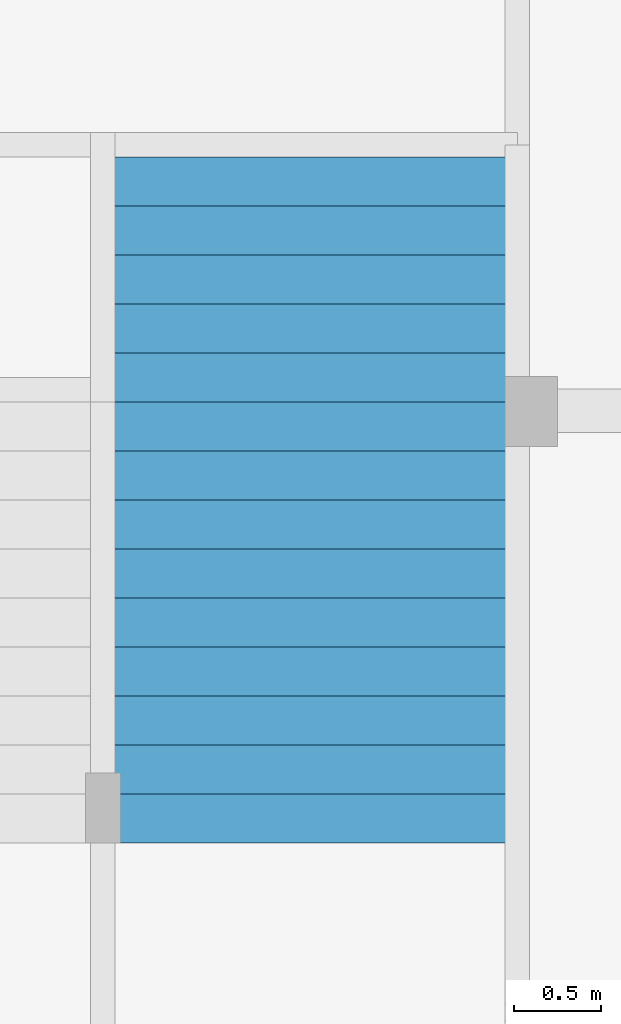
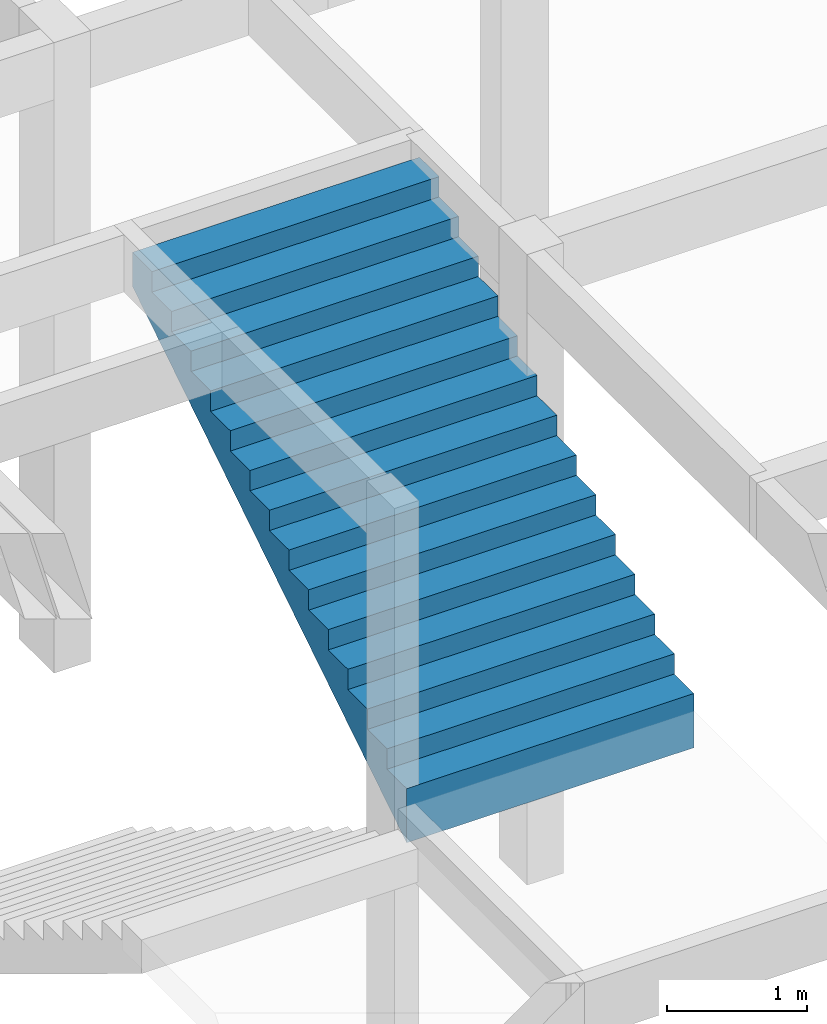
# One storey, part 8 of 8: 1 stair flight.
"""IFC4 building model written with IfcOpenShell, lengths in centimetres."""

from ifc_helpers import new_model, si_unit, derived_unit, frame, origin, origin_with_axes, place, context, project, spatial, faceted_brep, material, element, save


model = new_model("IFC4")

# Units and contexts
model_context = context("Model", 3, precision=1e-05, world=origin_with_axes(), identifier="Body")
ifc_project = project(units=[si_unit("LENGTHUNIT", "METRE", prefix="CENTI"), si_unit("VOLUMEUNIT", "CUBIC_METRE"), si_unit("AREAUNIT", "SQUARE_METRE"), si_unit("POWERUNIT", "WATT"), si_unit("LUMINOUSFLUXUNIT", "LUMEN"), si_unit("ELECTRICCURRENTUNIT", "AMPERE"), si_unit("PRESSUREUNIT", "PASCAL", prefix="KILO"), si_unit("MASSUNIT", "GRAM", prefix="KILO"), si_unit("PLANEANGLEUNIT", "RADIAN"), derived_unit("VOLUMETRICFLOWRATEUNIT", [(si_unit("LENGTHUNIT", "METRE"), 3), (si_unit("TIMEUNIT", "SECOND"), -1)])], contexts=[model_context])

# Site, building, storey
site_placement = place(None, origin_with_axes())
site = spatial("IfcSite", under=ifc_project, at=site_placement)
building_placement = place(site_placement, origin())
building = spatial("IfcBuilding", under=site, at=building_placement)
placement = place(building_placement, origin_with_axes())
storey_placement = place(placement, frame((0.0, 0.0, 550.0), z_axis=(0.0, 0.0, 1.0), x_axis=(1.0, 0.0, 0.0)))
storey = spatial("IfcBuildingStorey", under=building, at=storey_placement, Name="TÉRREO", CompositionType="ELEMENT", Elevation=550.0)

# Stair flight
ifc_material = material(Name="Concreto")
stair_flight_placement = place(storey_placement, frame((3022.1, -894.1, -17.7), z_axis=(0.0, 0.0, 1.0), x_axis=(1.0, 0.0, 0.0)))
element("IfcStairFlight", 1, at=stair_flight_placement, inside=storey, material=ifc_material, Name="LE4", NumberOfRisers=0, NumberOfTreads=0, context=model_context, shape_type="Brep", body=[
    faceted_brep([(-118.5, 196.0, 0.0), (-118.5, 168.0, 0.0), (118.5, 168.0, 0.0), (118.5, 196.0, 0.0), (-118.5, 168.0, -47.276221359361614), (-118.5, 196.0, -29.576221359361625), (118.5, 196.0, -29.576221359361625), (118.5, 168.0, -47.276221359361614), (-118.5, 196.0, -29.576221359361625), (-118.5, 196.0, 0.0), (118.5, 196.0, 0.0), (118.5, 196.0, -29.576221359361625), (-118.5, 168.0, 0.0), (-118.5, 168.0, -47.276221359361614), (118.5, 168.0, -47.276221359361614), (118.5, 168.0, 0.0), (118.5, 168.0, -47.276221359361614), (118.5, 196.0, -29.576221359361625), (118.5, 196.0, 0.0), (118.5, 168.0, 0.0), (-118.5, 168.0, -47.276221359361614), (-118.5, 168.0, 0.0), (-118.5, 196.0, 0.0), (-118.5, 196.0, -29.576221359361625), (-118.5, 168.0, -17.7), (-118.5, 140.0, -17.7), (118.5, 140.0, -17.7), (118.5, 168.0, -17.7), (-118.5, 140.0, -64.97622135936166), (-118.5, 168.0, -47.27622135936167), (118.5, 168.0, -47.27622135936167), (118.5, 140.0, -64.97622135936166), (-118.5, 168.0, -47.27622135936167), (-118.5, 168.0, -17.7), (118.5, 168.0, -17.7), (118.5, 168.0, -47.27622135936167), (-118.5, 140.0, -17.7), (-118.5, 140.0, -64.97622135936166), (118.5, 140.0, -64.97622135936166), (118.5, 140.0, -17.7), (118.5, 140.0, -64.97622135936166), (118.5, 168.0, -47.27622135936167), (118.5, 168.0, -17.7), (118.5, 140.0, -17.7), (-118.5, 140.0, -64.97622135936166), (-118.5, 140.0, -17.7), (-118.5, 168.0, -17.7), (-118.5, 168.0, -47.27622135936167), (-118.5, 140.0, -35.4), (-118.5, 112.0, -35.4), (118.5, 112.0, -35.4), (118.5, 140.0, -35.4), (-118.5, 112.0, -82.67622135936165), (-118.5, 140.0, -64.97622135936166), (118.5, 140.0, -64.97622135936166), (118.5, 112.0, -82.67622135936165), (-118.5, 140.0, -64.97622135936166), (-118.5, 140.0, -35.4), (118.5, 140.0, -35.4), (118.5, 140.0, -64.97622135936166), (-118.5, 112.0, -35.4), (-118.5, 112.0, -82.67622135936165), (118.5, 112.0, -82.67622135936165), (118.5, 112.0, -35.4), (118.5, 112.0, -82.67622135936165), (118.5, 140.0, -64.97622135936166), (118.5, 140.0, -35.4), (118.5, 112.0, -35.4), (-118.5, 112.0, -82.67622135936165), (-118.5, 112.0, -35.4), (-118.5, 140.0, -35.4), (-118.5, 140.0, -64.97622135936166), (-118.5, 112.0, -53.1), (-118.5, 84.0, -53.1), (118.5, 84.0, -53.1), (118.5, 112.0, -53.1), (-118.5, 84.0, -100.37622135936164), (-118.5, 112.0, -82.67622135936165), (118.5, 112.0, -82.67622135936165), (118.5, 84.0, -100.37622135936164), (-118.5, 112.0, -82.67622135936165), (-118.5, 112.0, -53.1), (118.5, 112.0, -53.1), (118.5, 112.0, -82.67622135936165), (-118.5, 84.0, -53.1), (-118.5, 84.0, -100.37622135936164), (118.5, 84.0, -100.37622135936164), (118.5, 84.0, -53.1), (118.5, 84.0, -100.37622135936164), (118.5, 112.0, -82.67622135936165), (118.5, 112.0, -53.1), (118.5, 84.0, -53.1), (-118.5, 84.0, -100.37622135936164), (-118.5, 84.0, -53.1), (-118.5, 112.0, -53.1), (-118.5, 112.0, -82.67622135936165), (-118.5, 84.0, -70.8), (-118.5, 56.0, -70.8), (118.5, 56.0, -70.8), (118.5, 84.0, -70.8), (-118.5, 56.0, -118.07622135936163), (-118.5, 84.0, -100.37622135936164), (118.5, 84.0, -100.37622135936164), (118.5, 56.0, -118.07622135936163), (-118.5, 84.0, -100.37622135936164), (-118.5, 84.0, -70.8), (118.5, 84.0, -70.8), (118.5, 84.0, -100.37622135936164), (-118.5, 56.0, -70.8), (-118.5, 56.0, -118.07622135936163), (118.5, 56.0, -118.07622135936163), (118.5, 56.0, -70.8), (118.5, 56.0, -118.07622135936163), (118.5, 84.0, -100.37622135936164), (118.5, 84.0, -70.8), (118.5, 56.0, -70.8), (-118.5, 56.0, -118.07622135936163), (-118.5, 56.0, -70.8), (-118.5, 84.0, -70.8), (-118.5, 84.0, -100.37622135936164), (-118.5, 56.0, -88.5), (-118.5, 28.0, -88.5), (118.5, 28.0, -88.5), (118.5, 56.0, -88.5), (-118.5, 28.0, -135.7762213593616), (-118.5, 56.0, -118.07622135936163), (118.5, 56.0, -118.07622135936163), (118.5, 28.0, -135.7762213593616), (-118.5, 56.0, -118.07622135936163), (-118.5, 56.0, -88.5), (118.5, 56.0, -88.5), (118.5, 56.0, -118.07622135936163), (-118.5, 28.0, -88.5), (-118.5, 28.0, -135.7762213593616), (118.5, 28.0, -135.7762213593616), (118.5, 28.0, -88.5), (118.5, 28.0, -135.7762213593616), (118.5, 56.0, -118.07622135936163), (118.5, 56.0, -88.5), (118.5, 28.0, -88.5), (-118.5, 28.0, -135.7762213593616), (-118.5, 28.0, -88.5), (-118.5, 56.0, -88.5), (-118.5, 56.0, -118.07622135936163), (-118.5, 28.0, -106.2), (-118.5, 0.0, -106.2), (118.5, 0.0, -106.2), (118.5, 28.0, -106.2), (-118.5, 0.0, -153.4762213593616), (-118.5, 28.0, -135.7762213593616), (118.5, 28.0, -135.7762213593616), (118.5, 0.0, -153.4762213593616), (-118.5, 28.0, -135.7762213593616), (-118.5, 28.0, -106.2), (118.5, 28.0, -106.2), (118.5, 28.0, -135.7762213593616), (-118.5, 0.0, -106.2), (-118.5, 0.0, -153.4762213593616), (118.5, 0.0, -153.4762213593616), (118.5, 0.0, -106.2), (118.5, 0.0, -153.4762213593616), (118.5, 28.0, -135.7762213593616), (118.5, 28.0, -106.2), (118.5, 0.0, -106.2), (-118.5, 0.0, -153.4762213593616), (-118.5, 0.0, -106.2), (-118.5, 28.0, -106.2), (-118.5, 28.0, -135.7762213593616), (-118.5, 0.0, -123.9), (-118.5, -28.0, -123.9), (118.5, -28.0, -123.9), (118.5, 0.0, -123.9), (-118.5, -28.0, -171.1762213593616), (-118.5, 0.0, -153.4762213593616), (118.5, 0.0, -153.4762213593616), (118.5, -28.0, -171.1762213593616), (-118.5, 0.0, -153.4762213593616), (-118.5, 0.0, -123.9), (118.5, 0.0, -123.9), (118.5, 0.0, -153.4762213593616), (-118.5, -28.0, -123.9), (-118.5, -28.0, -171.1762213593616), (118.5, -28.0, -171.1762213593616), (118.5, -28.0, -123.9), (118.5, -28.0, -171.1762213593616), (118.5, 0.0, -153.4762213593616), (118.5, 0.0, -123.9), (118.5, -28.0, -123.9), (-118.5, -28.0, -171.1762213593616), (-118.5, -28.0, -123.9), (-118.5, 0.0, -123.9), (-118.5, 0.0, -153.4762213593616), (-118.5, -28.0, -141.6), (-118.5, -56.0, -141.6), (118.5, -56.0, -141.6), (118.5, -28.0, -141.6), (-118.5, -56.0, -188.87622135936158), (-118.5, -28.0, -171.1762213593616), (118.5, -28.0, -171.1762213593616), (118.5, -56.0, -188.87622135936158), (-118.5, -28.0, -171.1762213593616), (-118.5, -28.0, -141.6), (118.5, -28.0, -141.6), (118.5, -28.0, -171.1762213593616), (-118.5, -56.0, -141.6), (-118.5, -56.0, -188.87622135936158), (118.5, -56.0, -188.87622135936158), (118.5, -56.0, -141.6), (118.5, -56.0, -188.87622135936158), (118.5, -28.0, -171.1762213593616), (118.5, -28.0, -141.6), (118.5, -56.0, -141.6), (-118.5, -56.0, -188.87622135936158), (-118.5, -56.0, -141.6), (-118.5, -28.0, -141.6), (-118.5, -28.0, -171.1762213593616), (-118.5, -56.0, -159.3), (-118.5, -84.0, -159.3), (118.5, -84.0, -159.3), (118.5, -56.0, -159.3), (-118.5, -84.0, -206.57622135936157), (-118.5, -56.0, -188.87622135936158), (118.5, -56.0, -188.87622135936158), (118.5, -84.0, -206.57622135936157), (-118.5, -56.0, -188.87622135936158), (-118.5, -56.0, -159.3), (118.5, -56.0, -159.3), (118.5, -56.0, -188.87622135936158), (-118.5, -84.0, -159.3), (-118.5, -84.0, -206.57622135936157), (118.5, -84.0, -206.57622135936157), (118.5, -84.0, -159.3), (118.5, -84.0, -206.57622135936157), (118.5, -56.0, -188.87622135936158), (118.5, -56.0, -159.3), (118.5, -84.0, -159.3), (-118.5, -84.0, -206.57622135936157), (-118.5, -84.0, -159.3), (-118.5, -56.0, -159.3), (-118.5, -56.0, -188.87622135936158), (-118.5, -84.0, -177.0), (-118.5, -112.0, -177.0), (118.5, -112.0, -177.0), (118.5, -84.0, -177.0), (-118.5, -112.0, -224.27622135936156), (-118.5, -84.0, -206.57622135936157), (118.5, -84.0, -206.57622135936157), (118.5, -112.0, -224.27622135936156), (-118.5, -84.0, -206.57622135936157), (-118.5, -84.0, -177.0), (118.5, -84.0, -177.0), (118.5, -84.0, -206.57622135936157), (-118.5, -112.0, -177.0), (-118.5, -112.0, -224.27622135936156), (118.5, -112.0, -224.27622135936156), (118.5, -112.0, -177.0), (118.5, -112.0, -224.27622135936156), (118.5, -84.0, -206.57622135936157), (118.5, -84.0, -177.0), (118.5, -112.0, -177.0), (-118.5, -112.0, -224.27622135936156), (-118.5, -112.0, -177.0), (-118.5, -84.0, -177.0), (-118.5, -84.0, -206.57622135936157), (-118.5, -112.0, -194.7), (-118.5, -140.0, -194.7), (118.5, -140.0, -194.7), (118.5, -112.0, -194.7), (-118.5, -140.0, -241.97622135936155), (-118.5, -112.0, -224.27622135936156), (118.5, -112.0, -224.27622135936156), (118.5, -140.0, -241.97622135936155), (-118.5, -112.0, -224.27622135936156), (-118.5, -112.0, -194.7), (118.5, -112.0, -194.7), (118.5, -112.0, -224.27622135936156), (-118.5, -140.0, -194.7), (-118.5, -140.0, -241.97622135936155), (118.5, -140.0, -241.97622135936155), (118.5, -140.0, -194.7), (118.5, -140.0, -241.97622135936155), (118.5, -112.0, -224.27622135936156), (118.5, -112.0, -194.7), (118.5, -140.0, -194.7), (-118.5, -140.0, -241.97622135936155), (-118.5, -140.0, -194.7), (-118.5, -112.0, -194.7), (-118.5, -112.0, -224.27622135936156), (-118.5, -140.0, -212.4), (-118.5, -168.0, -212.4), (118.5, -168.0, -212.4), (118.5, -140.0, -212.4), (-118.5, -168.0, -259.67622135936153), (-118.5, -140.0, -241.97622135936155), (118.5, -140.0, -241.97622135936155), (118.5, -168.0, -259.67622135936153), (-118.5, -140.0, -241.97622135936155), (-118.5, -140.0, -212.4), (118.5, -140.0, -212.4), (118.5, -140.0, -241.97622135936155), (-118.5, -168.0, -212.4), (-118.5, -168.0, -259.67622135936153), (118.5, -168.0, -259.67622135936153), (118.5, -168.0, -212.4), (118.5, -168.0, -259.67622135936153), (118.5, -140.0, -241.97622135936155), (118.5, -140.0, -212.4), (118.5, -168.0, -212.4), (-118.5, -168.0, -259.67622135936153), (-118.5, -168.0, -212.4), (-118.5, -140.0, -212.4), (-118.5, -140.0, -241.97622135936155), (-118.5, -168.0, -230.1), (-118.5, -196.0, -230.1), (118.5, -196.0, -230.1), (118.5, -168.0, -230.1), (-118.5, -196.0, -277.37622135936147), (-118.5, -168.0, -259.67622135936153), (118.5, -168.0, -259.67622135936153), (118.5, -196.0, -277.37622135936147), (-118.5, -168.0, -259.67622135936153), (-118.5, -168.0, -230.1), (118.5, -168.0, -230.1), (118.5, -168.0, -259.67622135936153), (-118.5, -196.0, -230.1), (-118.5, -196.0, -277.37622135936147), (118.5, -196.0, -277.37622135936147), (118.5, -196.0, -230.1), (118.5, -196.0, -277.37622135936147), (118.5, -168.0, -259.67622135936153), (118.5, -168.0, -230.1), (118.5, -196.0, -230.1), (-118.5, -196.0, -277.37622135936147), (-118.5, -196.0, -230.1), (-118.5, -168.0, -230.1), (-118.5, -168.0, -259.67622135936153)], [[[0, 1, 2, 3]], [[4, 5, 6, 7]], [[8, 9, 10, 11]], [[12, 13, 14, 15]], [[16, 17, 18, 19]], [[20, 21, 22, 23]], [[24, 25, 26, 27]], [[28, 29, 30, 31]], [[32, 33, 34, 35]], [[36, 37, 38, 39]], [[40, 41, 42, 43]], [[44, 45, 46, 47]], [[48, 49, 50, 51]], [[52, 53, 54, 55]], [[56, 57, 58, 59]], [[60, 61, 62, 63]], [[64, 65, 66, 67]], [[68, 69, 70, 71]], [[72, 73, 74, 75]], [[76, 77, 78, 79]], [[80, 81, 82, 83]], [[84, 85, 86, 87]], [[88, 89, 90, 91]], [[92, 93, 94, 95]], [[96, 97, 98, 99]], [[100, 101, 102, 103]], [[104, 105, 106, 107]], [[108, 109, 110, 111]], [[112, 113, 114, 115]], [[116, 117, 118, 119]], [[120, 121, 122, 123]], [[124, 125, 126, 127]], [[128, 129, 130, 131]], [[132, 133, 134, 135]], [[136, 137, 138, 139]], [[140, 141, 142, 143]], [[144, 145, 146, 147]], [[148, 149, 150, 151]], [[152, 153, 154, 155]], [[156, 157, 158, 159]], [[160, 161, 162, 163]], [[164, 165, 166, 167]], [[168, 169, 170, 171]], [[172, 173, 174, 175]], [[176, 177, 178, 179]], [[180, 181, 182, 183]], [[184, 185, 186, 187]], [[188, 189, 190, 191]], [[192, 193, 194, 195]], [[196, 197, 198, 199]], [[200, 201, 202, 203]], [[204, 205, 206, 207]], [[208, 209, 210, 211]], [[212, 213, 214, 215]], [[216, 217, 218, 219]], [[220, 221, 222, 223]], [[224, 225, 226, 227]], [[228, 229, 230, 231]], [[232, 233, 234, 235]], [[236, 237, 238, 239]], [[240, 241, 242, 243]], [[244, 245, 246, 247]], [[248, 249, 250, 251]], [[252, 253, 254, 255]], [[256, 257, 258, 259]], [[260, 261, 262, 263]], [[264, 265, 266, 267]], [[268, 269, 270, 271]], [[272, 273, 274, 275]], [[276, 277, 278, 279]], [[280, 281, 282, 283]], [[284, 285, 286, 287]], [[288, 289, 290, 291]], [[292, 293, 294, 295]], [[296, 297, 298, 299]], [[300, 301, 302, 303]], [[304, 305, 306, 307]], [[308, 309, 310, 311]], [[312, 313, 314, 315]], [[316, 317, 318, 319]], [[320, 321, 322, 323]], [[324, 325, 326, 327]], [[328, 329, 330, 331]], [[332, 333, 334, 335]]]),
])

save(model, "model.ifc")
